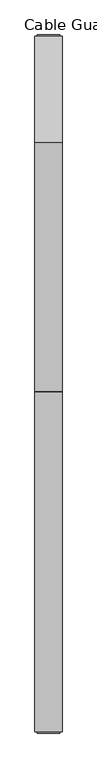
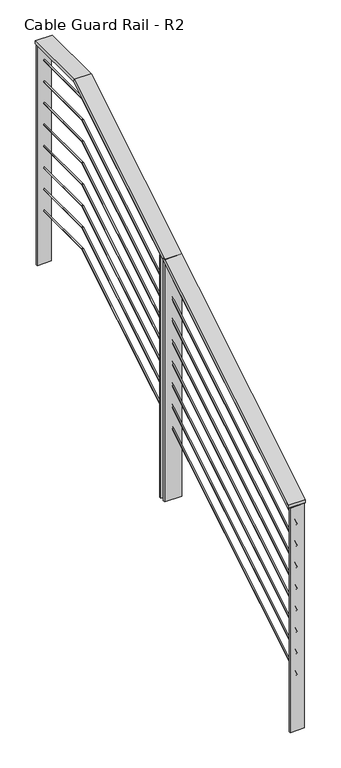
"""IFC4 building model written with IfcOpenShell, lengths in millimetres: railing geometry, Cable Guard Rail - R2."""

from ifc_helpers import new_model, si_unit, frame, origin, place, context, project, spatial, polyline, circle_curve, ellipse_curve, outline, extrude, faceted_brep, source, transform, mapped, element, save
from ifc_brep_helpers import plane_surface, cylinder_surface, advanced_brep


def cable_guard_rail_r2_2a0052cb(model_context):
    return source(origin(), model_context, "Body", "SolidModel", [
        faceted_brep([(35062.2651961, 175399.2960038, 293998.0465295), (35062.2651961, 175399.2960038, 293983.1836834), (35138.4651961, 175399.2960038, 293983.1836834), (35138.4651961, 175399.2960038, 293998.0465295), (35062.2651961, 177055.7989086, 295005.125), (35062.2651961, 177059.3564871, 294992.425), (35138.4651961, 177059.3564871, 294992.425), (35138.4651961, 177055.7989086, 295005.125), (35062.2651961, 177355.0960038, 295005.125), (35138.4651961, 177355.0960038, 295005.125), (35138.4651961, 177355.0960038, 294992.425), (35062.2651961, 177355.0960038, 294992.425)], [[[0, 1, 2, 3]], [[1, 0, 4, 5]], [[2, 1, 5, 6]], [[3, 2, 6, 7]], [[0, 3, 7, 4]], [[8, 9, 10, 11]], [[5, 4, 8, 11]], [[6, 5, 11, 10]], [[7, 6, 10, 9]], [[4, 7, 9, 8]]]),
        advanced_brep(
        [(35103.5401961, 175399.2960038, 293896.4465295), (35097.1901961, 175399.2960038, 293896.4465295), (35103.5401961, 177055.7989086, 294903.525), (35097.1901961, 177055.7989086, 294903.525), (35103.5401961, 177355.0960038, 294903.525), (35097.1901961, 177355.0960038, 294903.525)],
        [
            (0, 1, ellipse_curve(frame((35100.3651961, 175399.2960038, 293896.4465295), z_axis=(0.0, -1.0, 0.0), x_axis=(0.0, 0.0, -1.0)), 3.7157115, 3.175)),
            (1, 0, ellipse_curve(frame((35100.3651961, 175399.2960038, 293896.4465295), z_axis=(0.0, -1.0, 0.0), x_axis=(0.0, 0.0, -1.0)), 3.7157115, 3.175)),
            (0, 2),
            (2, 3, ellipse_curve(frame((35100.3651961, 177055.7989086, 294903.525), z_axis=(0.0, -0.9629329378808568, -0.2697409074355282), x_axis=(0.0, 0.2697409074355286, -0.9629329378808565)), 3.2972182, 3.175)),
            (3, 1),
            (3, 2, ellipse_curve(frame((35100.3651961, 177055.7989086, 294903.525), z_axis=(0.0, -0.9629329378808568, -0.2697409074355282), x_axis=(0.0, 0.2697409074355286, -0.9629329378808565)), 3.2972182, 3.175)),
            (4, 5, circle_curve(frame((35100.3651961, 177355.0960038, 294903.525), z_axis=(0.0, 1.0, 0.0), x_axis=(-1.0, 0.0, 0.0)), 3.175)),
            (5, 4, circle_curve(frame((35100.3651961, 177355.0960038, 294903.525), z_axis=(0.0, 1.0, 0.0), x_axis=(-1.0, 0.0, 0.0)), 3.175)),
            (2, 4),
            (5, 3),
        ],
        [
            plane_surface(frame((35100.3651961, 175399.2960038, 293896.4465295), z_axis=(0.0, -1.0, 0.0), x_axis=(0.0, 0.0, 1.0))),
            cylinder_surface(frame((35100.3651961, 175399.2960038, 293896.4465295), z_axis=(0.0, -0.8544796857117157, -0.5194848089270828), x_axis=(-1.0, 0.0, 0.0)), 3.175),
            plane_surface(frame((35100.3651961, 177355.0960038, 294903.525), z_axis=(0.0, 1.0, 0.0), x_axis=(0.0, 0.0, 1.0))),
            cylinder_surface(frame((35100.3651961, 177055.7989086, 294903.525), z_axis=(0.0, -1.0, 0.0), x_axis=(-1.0, 0.0, 0.0)), 3.175),
        ],
        [
            (0, [[1, 2]]),
            (1, [[-1, 3, 4, 5]]),
            (1, [[-2, -5, 6, -3]]),
            (2, [[7, 8]]),
            (3, [[-4, 9, -8, 10]]),
            (3, [[-6, -10, -7, -9]]),
        ],
    ),
        advanced_brep(
        [(35103.5401961, 175399.2960038, 293794.8465295), (35097.1901961, 175399.2960038, 293794.8465295), (35103.5401961, 177055.7989086, 294801.925), (35097.1901961, 177055.7989086, 294801.925), (35103.5401961, 177355.0960038, 294801.925), (35097.1901961, 177355.0960038, 294801.925)],
        [
            (0, 1, ellipse_curve(frame((35100.3651961, 175399.2960038, 293794.8465295), z_axis=(0.0, -1.0, 0.0), x_axis=(0.0, 0.0, -1.0)), 3.7157115, 3.175)),
            (1, 0, ellipse_curve(frame((35100.3651961, 175399.2960038, 293794.8465295), z_axis=(0.0, -1.0, 0.0), x_axis=(0.0, 0.0, -1.0)), 3.7157115, 3.175)),
            (0, 2),
            (2, 3, ellipse_curve(frame((35100.3651961, 177055.7989086, 294801.925), z_axis=(0.0, -0.9629329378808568, -0.2697409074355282), x_axis=(0.0, 0.2697409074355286, -0.9629329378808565)), 3.2972182, 3.175)),
            (3, 1),
            (3, 2, ellipse_curve(frame((35100.3651961, 177055.7989086, 294801.925), z_axis=(0.0, -0.9629329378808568, -0.2697409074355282), x_axis=(0.0, 0.2697409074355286, -0.9629329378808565)), 3.2972182, 3.175)),
            (4, 5, circle_curve(frame((35100.3651961, 177355.0960038, 294801.925), z_axis=(0.0, 1.0, 0.0), x_axis=(-1.0, 0.0, 0.0)), 3.175)),
            (5, 4, circle_curve(frame((35100.3651961, 177355.0960038, 294801.925), z_axis=(0.0, 1.0, 0.0), x_axis=(-1.0, 0.0, 0.0)), 3.175)),
            (2, 4),
            (5, 3),
        ],
        [
            plane_surface(frame((35100.3651961, 175399.2960038, 293794.8465295), z_axis=(0.0, -1.0, 0.0), x_axis=(0.0, 0.0, 1.0))),
            cylinder_surface(frame((35100.3651961, 175399.2960038, 293794.8465295), z_axis=(0.0, -0.8544796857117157, -0.5194848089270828), x_axis=(-1.0, 0.0, 0.0)), 3.175),
            plane_surface(frame((35100.3651961, 177355.0960038, 294801.925), z_axis=(0.0, 1.0, 0.0), x_axis=(0.0, 0.0, 1.0))),
            cylinder_surface(frame((35100.3651961, 177055.7989086, 294801.925), z_axis=(0.0, -1.0, 0.0), x_axis=(-1.0, 0.0, 0.0)), 3.175),
        ],
        [
            (0, [[1, 2]]),
            (1, [[-1, 3, 4, 5]]),
            (1, [[-2, -5, 6, -3]]),
            (2, [[7, 8]]),
            (3, [[-4, 9, -8, 10]]),
            (3, [[-6, -10, -7, -9]]),
        ],
    ),
        advanced_brep(
        [(35103.5401961, 175399.2960038, 293693.2465295), (35097.1901961, 175399.2960038, 293693.2465295), (35103.5401961, 177055.7989086, 294700.325), (35097.1901961, 177055.7989086, 294700.325), (35103.5401961, 177355.0960038, 294700.325), (35097.1901961, 177355.0960038, 294700.325)],
        [
            (0, 1, ellipse_curve(frame((35100.3651961, 175399.2960038, 293693.2465295), z_axis=(0.0, -1.0, 0.0), x_axis=(0.0, 0.0, -1.0)), 3.7157115, 3.175)),
            (1, 0, ellipse_curve(frame((35100.3651961, 175399.2960038, 293693.2465295), z_axis=(0.0, -1.0, 0.0), x_axis=(0.0, 0.0, -1.0)), 3.7157115, 3.175)),
            (0, 2),
            (2, 3, ellipse_curve(frame((35100.3651961, 177055.7989086, 294700.325), z_axis=(0.0, -0.9629329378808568, -0.2697409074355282), x_axis=(0.0, 0.2697409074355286, -0.9629329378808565)), 3.2972182, 3.175)),
            (3, 1),
            (3, 2, ellipse_curve(frame((35100.3651961, 177055.7989086, 294700.325), z_axis=(0.0, -0.9629329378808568, -0.2697409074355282), x_axis=(0.0, 0.2697409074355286, -0.9629329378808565)), 3.2972182, 3.175)),
            (4, 5, circle_curve(frame((35100.3651961, 177355.0960038, 294700.325), z_axis=(0.0, 1.0, 0.0), x_axis=(-1.0, 0.0, 0.0)), 3.175)),
            (5, 4, circle_curve(frame((35100.3651961, 177355.0960038, 294700.325), z_axis=(0.0, 1.0, 0.0), x_axis=(-1.0, 0.0, 0.0)), 3.175)),
            (2, 4),
            (5, 3),
        ],
        [
            plane_surface(frame((35100.3651961, 175399.2960038, 293693.2465295), z_axis=(0.0, -1.0, 0.0), x_axis=(0.0, 0.0, 1.0))),
            cylinder_surface(frame((35100.3651961, 175399.2960038, 293693.2465295), z_axis=(0.0, -0.8544796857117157, -0.5194848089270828), x_axis=(-1.0, 0.0, 0.0)), 3.175),
            plane_surface(frame((35100.3651961, 177355.0960038, 294700.325), z_axis=(0.0, 1.0, 0.0), x_axis=(0.0, 0.0, 1.0))),
            cylinder_surface(frame((35100.3651961, 177055.7989086, 294700.325), z_axis=(0.0, -1.0, 0.0), x_axis=(-1.0, 0.0, 0.0)), 3.175),
        ],
        [
            (0, [[1, 2]]),
            (1, [[-1, 3, 4, 5]]),
            (1, [[-2, -5, 6, -3]]),
            (2, [[7, 8]]),
            (3, [[-4, 9, -8, 10]]),
            (3, [[-6, -10, -7, -9]]),
        ],
    ),
        advanced_brep(
        [(35103.5401961, 175399.2960038, 293591.6465295), (35097.1901961, 175399.2960038, 293591.6465295), (35103.5401961, 177055.7989086, 294598.725), (35097.1901961, 177055.7989086, 294598.725), (35103.5401961, 177355.0960038, 294598.725), (35097.1901961, 177355.0960038, 294598.725)],
        [
            (0, 1, ellipse_curve(frame((35100.3651961, 175399.2960038, 293591.6465295), z_axis=(0.0, -1.0, 0.0), x_axis=(0.0, 0.0, -1.0)), 3.7157115, 3.175)),
            (1, 0, ellipse_curve(frame((35100.3651961, 175399.2960038, 293591.6465295), z_axis=(0.0, -1.0, 0.0), x_axis=(0.0, 0.0, -1.0)), 3.7157115, 3.175)),
            (0, 2),
            (2, 3, ellipse_curve(frame((35100.3651961, 177055.7989086, 294598.725), z_axis=(0.0, -0.9629329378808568, -0.2697409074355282), x_axis=(0.0, 0.2697409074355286, -0.9629329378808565)), 3.2972182, 3.175)),
            (3, 1),
            (3, 2, ellipse_curve(frame((35100.3651961, 177055.7989086, 294598.725), z_axis=(0.0, -0.9629329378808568, -0.2697409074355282), x_axis=(0.0, 0.2697409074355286, -0.9629329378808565)), 3.2972182, 3.175)),
            (4, 5, circle_curve(frame((35100.3651961, 177355.0960038, 294598.725), z_axis=(0.0, 1.0, 0.0), x_axis=(-1.0, 0.0, 0.0)), 3.175)),
            (5, 4, circle_curve(frame((35100.3651961, 177355.0960038, 294598.725), z_axis=(0.0, 1.0, 0.0), x_axis=(-1.0, 0.0, 0.0)), 3.175)),
            (2, 4),
            (5, 3),
        ],
        [
            plane_surface(frame((35100.3651961, 175399.2960038, 293591.6465295), z_axis=(0.0, -1.0, 0.0), x_axis=(0.0, 0.0, 1.0))),
            cylinder_surface(frame((35100.3651961, 175399.2960038, 293591.6465295), z_axis=(0.0, -0.8544796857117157, -0.5194848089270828), x_axis=(-1.0, 0.0, 0.0)), 3.175),
            plane_surface(frame((35100.3651961, 177355.0960038, 294598.725), z_axis=(0.0, 1.0, 0.0), x_axis=(0.0, 0.0, 1.0))),
            cylinder_surface(frame((35100.3651961, 177055.7989086, 294598.725), z_axis=(0.0, -1.0, 0.0), x_axis=(-1.0, 0.0, 0.0)), 3.175),
        ],
        [
            (0, [[1, 2]]),
            (1, [[-1, 3, 4, 5]]),
            (1, [[-2, -5, 6, -3]]),
            (2, [[7, 8]]),
            (3, [[-4, 9, -8, 10]]),
            (3, [[-6, -10, -7, -9]]),
        ],
    ),
        advanced_brep(
        [(35103.5401961, 175399.2960038, 293490.0465295), (35097.1901961, 175399.2960038, 293490.0465295), (35103.5401961, 177055.7989086, 294497.125), (35097.1901961, 177055.7989086, 294497.125), (35103.5401961, 177355.0960038, 294497.125), (35097.1901961, 177355.0960038, 294497.125)],
        [
            (0, 1, ellipse_curve(frame((35100.3651961, 175399.2960038, 293490.0465295), z_axis=(0.0, -1.0, 0.0), x_axis=(0.0, 0.0, -1.0)), 3.7157115, 3.175)),
            (1, 0, ellipse_curve(frame((35100.3651961, 175399.2960038, 293490.0465295), z_axis=(0.0, -1.0, 0.0), x_axis=(0.0, 0.0, -1.0)), 3.7157115, 3.175)),
            (0, 2),
            (2, 3, ellipse_curve(frame((35100.3651961, 177055.7989086, 294497.125), z_axis=(0.0, -0.9629329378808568, -0.2697409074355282), x_axis=(0.0, 0.2697409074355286, -0.9629329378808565)), 3.2972182, 3.175)),
            (3, 1),
            (3, 2, ellipse_curve(frame((35100.3651961, 177055.7989086, 294497.125), z_axis=(0.0, -0.9629329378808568, -0.2697409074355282), x_axis=(0.0, 0.2697409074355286, -0.9629329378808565)), 3.2972182, 3.175)),
            (4, 5, circle_curve(frame((35100.3651961, 177355.0960038, 294497.125), z_axis=(0.0, 1.0, 0.0), x_axis=(-1.0, 0.0, 0.0)), 3.175)),
            (5, 4, circle_curve(frame((35100.3651961, 177355.0960038, 294497.125), z_axis=(0.0, 1.0, 0.0), x_axis=(-1.0, 0.0, 0.0)), 3.175)),
            (2, 4),
            (5, 3),
        ],
        [
            plane_surface(frame((35100.3651961, 175399.2960038, 293490.0465295), z_axis=(0.0, -1.0, 0.0), x_axis=(0.0, 0.0, 1.0))),
            cylinder_surface(frame((35100.3651961, 175399.2960038, 293490.0465295), z_axis=(0.0, -0.8544796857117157, -0.5194848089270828), x_axis=(-1.0, 0.0, 0.0)), 3.175),
            plane_surface(frame((35100.3651961, 177355.0960038, 294497.125), z_axis=(0.0, 1.0, 0.0), x_axis=(0.0, 0.0, 1.0))),
            cylinder_surface(frame((35100.3651961, 177055.7989086, 294497.125), z_axis=(0.0, -1.0, 0.0), x_axis=(-1.0, 0.0, 0.0)), 3.175),
        ],
        [
            (0, [[1, 2]]),
            (1, [[-1, 3, 4, 5]]),
            (1, [[-2, -5, 6, -3]]),
            (2, [[7, 8]]),
            (3, [[-4, 9, -8, 10]]),
            (3, [[-6, -10, -7, -9]]),
        ],
    ),
        advanced_brep(
        [(35103.5401961, 175399.2960038, 293388.4465295), (35097.1901961, 175399.2960038, 293388.4465295), (35103.5401961, 177055.7989086, 294395.525), (35097.1901961, 177055.7989086, 294395.525), (35103.5401961, 177355.0960038, 294395.525), (35097.1901961, 177355.0960038, 294395.525)],
        [
            (0, 1, ellipse_curve(frame((35100.3651961, 175399.2960038, 293388.4465295), z_axis=(0.0, -1.0, 0.0), x_axis=(0.0, 0.0, -1.0)), 3.7157115, 3.175)),
            (1, 0, ellipse_curve(frame((35100.3651961, 175399.2960038, 293388.4465295), z_axis=(0.0, -1.0, 0.0), x_axis=(0.0, 0.0, -1.0)), 3.7157115, 3.175)),
            (0, 2),
            (2, 3, ellipse_curve(frame((35100.3651961, 177055.7989086, 294395.525), z_axis=(0.0, -0.9629329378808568, -0.2697409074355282), x_axis=(0.0, 0.2697409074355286, -0.9629329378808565)), 3.2972182, 3.175)),
            (3, 1),
            (3, 2, ellipse_curve(frame((35100.3651961, 177055.7989086, 294395.525), z_axis=(0.0, -0.9629329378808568, -0.2697409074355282), x_axis=(0.0, 0.2697409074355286, -0.9629329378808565)), 3.2972182, 3.175)),
            (4, 5, circle_curve(frame((35100.3651961, 177355.0960038, 294395.525), z_axis=(0.0, 1.0, 0.0), x_axis=(-1.0, 0.0, 0.0)), 3.175)),
            (5, 4, circle_curve(frame((35100.3651961, 177355.0960038, 294395.525), z_axis=(0.0, 1.0, 0.0), x_axis=(-1.0, 0.0, 0.0)), 3.175)),
            (2, 4),
            (5, 3),
        ],
        [
            plane_surface(frame((35100.3651961, 175399.2960038, 293388.4465295), z_axis=(0.0, -1.0, 0.0), x_axis=(0.0, 0.0, 1.0))),
            cylinder_surface(frame((35100.3651961, 175399.2960038, 293388.4465295), z_axis=(0.0, -0.8544796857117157, -0.5194848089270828), x_axis=(-1.0, 0.0, 0.0)), 3.175),
            plane_surface(frame((35100.3651961, 177355.0960038, 294395.525), z_axis=(0.0, 1.0, 0.0), x_axis=(0.0, 0.0, 1.0))),
            cylinder_surface(frame((35100.3651961, 177055.7989086, 294395.525), z_axis=(0.0, -1.0, 0.0), x_axis=(-1.0, 0.0, 0.0)), 3.175),
        ],
        [
            (0, [[1, 2]]),
            (1, [[-1, 3, 4, 5]]),
            (1, [[-2, -5, 6, -3]]),
            (2, [[7, 8]]),
            (3, [[-4, 9, -8, 10]]),
            (3, [[-6, -10, -7, -9]]),
        ],
    ),
        advanced_brep(
        [(35103.5401961, 175399.2960038, 293286.8465295), (35097.1901961, 175399.2960038, 293286.8465295), (35103.5401961, 177055.7989086, 294293.925), (35097.1901961, 177055.7989086, 294293.925), (35103.5401961, 177355.0960038, 294293.925), (35097.1901961, 177355.0960038, 294293.925)],
        [
            (0, 1, ellipse_curve(frame((35100.3651961, 175399.2960038, 293286.8465295), z_axis=(0.0, -1.0, 0.0), x_axis=(0.0, 0.0, -1.0)), 3.7157115, 3.175)),
            (1, 0, ellipse_curve(frame((35100.3651961, 175399.2960038, 293286.8465295), z_axis=(0.0, -1.0, 0.0), x_axis=(0.0, 0.0, -1.0)), 3.7157115, 3.175)),
            (0, 2),
            (2, 3, ellipse_curve(frame((35100.3651961, 177055.7989086, 294293.925), z_axis=(0.0, -0.9629329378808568, -0.2697409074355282), x_axis=(0.0, 0.2697409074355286, -0.9629329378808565)), 3.2972182, 3.175)),
            (3, 1),
            (3, 2, ellipse_curve(frame((35100.3651961, 177055.7989086, 294293.925), z_axis=(0.0, -0.9629329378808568, -0.2697409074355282), x_axis=(0.0, 0.2697409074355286, -0.9629329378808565)), 3.2972182, 3.175)),
            (4, 5, circle_curve(frame((35100.3651961, 177355.0960038, 294293.925), z_axis=(0.0, 1.0, 0.0), x_axis=(-1.0, 0.0, 0.0)), 3.175)),
            (5, 4, circle_curve(frame((35100.3651961, 177355.0960038, 294293.925), z_axis=(0.0, 1.0, 0.0), x_axis=(-1.0, 0.0, 0.0)), 3.175)),
            (2, 4),
            (5, 3),
        ],
        [
            plane_surface(frame((35100.3651961, 175399.2960038, 293286.8465295), z_axis=(0.0, -1.0, 0.0), x_axis=(0.0, 0.0, 1.0))),
            cylinder_surface(frame((35100.3651961, 175399.2960038, 293286.8465295), z_axis=(0.0, -0.8544796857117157, -0.5194848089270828), x_axis=(-1.0, 0.0, 0.0)), 3.175),
            plane_surface(frame((35100.3651961, 177355.0960038, 294293.925), z_axis=(0.0, 1.0, 0.0), x_axis=(0.0, 0.0, 1.0))),
            cylinder_surface(frame((35100.3651961, 177055.7989086, 294293.925), z_axis=(0.0, -1.0, 0.0), x_axis=(-1.0, 0.0, 0.0)), 3.175),
        ],
        [
            (0, [[1, 2]]),
            (1, [[-1, 3, 4, 5]]),
            (1, [[-2, -5, 6, -3]]),
            (2, [[7, 8]]),
            (3, [[-4, 9, -8, 10]]),
            (3, [[-6, -10, -7, -9]]),
        ],
    ),
        advanced_brep(
        [(35103.5401961, 175399.2960038, 293185.2465295), (35097.1901961, 175399.2960038, 293185.2465295), (35103.5401961, 177055.7989086, 294192.325), (35097.1901961, 177055.7989086, 294192.325), (35103.5401961, 177355.0960038, 294192.325), (35097.1901961, 177355.0960038, 294192.325)],
        [
            (0, 1, ellipse_curve(frame((35100.3651961, 175399.2960038, 293185.2465295), z_axis=(0.0, -1.0, 0.0), x_axis=(0.0, 0.0, -1.0)), 3.7157115, 3.175)),
            (1, 0, ellipse_curve(frame((35100.3651961, 175399.2960038, 293185.2465295), z_axis=(0.0, -1.0, 0.0), x_axis=(0.0, 0.0, -1.0)), 3.7157115, 3.175)),
            (0, 2),
            (2, 3, ellipse_curve(frame((35100.3651961, 177055.7989086, 294192.325), z_axis=(0.0, -0.9629329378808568, -0.2697409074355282), x_axis=(0.0, 0.2697409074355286, -0.9629329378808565)), 3.2972182, 3.175)),
            (3, 1),
            (3, 2, ellipse_curve(frame((35100.3651961, 177055.7989086, 294192.325), z_axis=(0.0, -0.9629329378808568, -0.2697409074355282), x_axis=(0.0, 0.2697409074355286, -0.9629329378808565)), 3.2972182, 3.175)),
            (4, 5, circle_curve(frame((35100.3651961, 177355.0960038, 294192.325), z_axis=(0.0, 1.0, 0.0), x_axis=(-1.0, 0.0, 0.0)), 3.175)),
            (5, 4, circle_curve(frame((35100.3651961, 177355.0960038, 294192.325), z_axis=(0.0, 1.0, 0.0), x_axis=(-1.0, 0.0, 0.0)), 3.175)),
            (2, 4),
            (5, 3),
        ],
        [
            plane_surface(frame((35100.3651961, 175399.2960038, 293185.2465295), z_axis=(0.0, -1.0, 0.0), x_axis=(0.0, 0.0, 1.0))),
            cylinder_surface(frame((35100.3651961, 175399.2960038, 293185.2465295), z_axis=(0.0, -0.8544796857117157, -0.5194848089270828), x_axis=(-1.0, 0.0, 0.0)), 3.175),
            plane_surface(frame((35100.3651961, 177355.0960038, 294192.325), z_axis=(0.0, 1.0, 0.0), x_axis=(0.0, 0.0, 1.0))),
            cylinder_surface(frame((35100.3651961, 177055.7989086, 294192.325), z_axis=(0.0, -1.0, 0.0), x_axis=(-1.0, 0.0, 0.0)), 3.175),
        ],
        [
            (0, [[1, 2]]),
            (1, [[-1, 3, 4, 5]]),
            (1, [[-2, -5, 6, -3]]),
            (2, [[7, 8]]),
            (3, [[-4, 9, -8, 10]]),
            (3, [[-6, -10, -7, -9]]),
        ],
    ),
        extrude(outline(polyline([(35138.4651961, 176354.9710038), (35062.2651961, 176354.9710038), (35062.2651961, 176364.4960038), (35138.4651961, 176364.4960038), (35138.4651961, 176354.9710038)])), frame((0.0, 0.0, 293435.0875), z_axis=(0.0, 0.0, 1.0), x_axis=(1.0, 0.0, 0.0)), (0.0, 0.0, 1.0), 1144.7777795),
        extrude(outline(polyline([(35138.4651961, 176383.5460038), (35062.2651961, 176383.5460038), (35062.2651961, 176393.0227684), (35138.4651961, 176393.0227684), (35138.4651961, 176383.5460038)])), frame((0.0, 0.0, 293435.0875), z_axis=(0.0, 0.0, 1.0), x_axis=(1.0, 0.0, 0.0)), (0.0, 0.0, 1.0), 1144.7777795),
        extrude(outline(polyline([(35132.1151961, 177351.9210038), (35068.6151961, 177351.9210038), (35068.6151961, 177358.2710038), (35132.1151961, 177358.2710038), (35132.1151961, 177351.9210038)])), frame((0.0, 0.0, 293944.675), z_axis=(0.0, 0.0, 1.0), x_axis=(1.0, 0.0, 0.0)), (0.0, 0.0, 1.0), 1047.75),
        extrude(outline(polyline([(35132.1151961, 175396.1210038), (35068.6151961, 175396.1210038), (35068.6151961, 175402.4710038), (35132.1151961, 175402.4710038), (35132.1151961, 175396.1210038)])), frame((0.0, 0.0, 292925.5), z_axis=(0.0, 0.0, 1.0), x_axis=(1.0, 0.0, 0.0)), (0.0, 0.0, 1.0), 1059.8465295),
    ])


if __name__ == "__main__":
    model = new_model("IFC4")
    model_context = context("Model", 3, world=origin())
    ifc_project = project(units=[si_unit("LENGTHUNIT", "METRE", prefix="MILLI")], contexts=[model_context])
    site = spatial("IfcSite", under=ifc_project)
    building = spatial("IfcBuilding", under=site)
    placement = place(None, origin())
    cable_guard_rail_r2_shape = cable_guard_rail_r2_2a0052cb(model_context)
    element("IfcRailing", 1, ObjectType="Cable Guard Rail - R2", at=placement, inside=building, context=model_context, shape_type="MappedRepresentation", body=[
        mapped(cable_guard_rail_r2_shape, transform((0.0, 0.0, 0.0), x_axis=(1.0, 0.0, 0.0), y_axis=(0.0, 1.0, 0.0), z_axis=(0.0, 0.0, 1.0))),
    ])
    save(model, "model.ifc")
